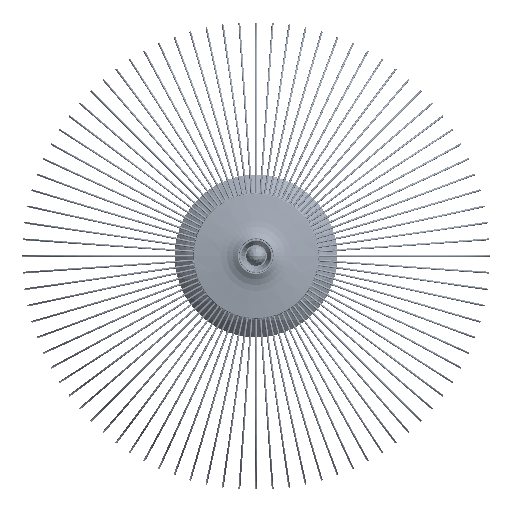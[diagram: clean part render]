
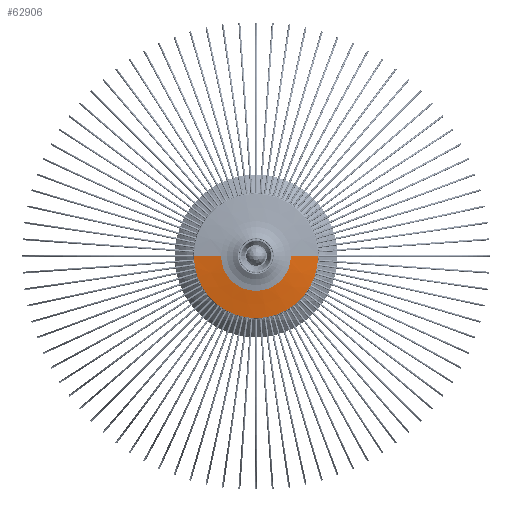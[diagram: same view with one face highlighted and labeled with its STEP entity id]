
A CAD part, front view. The second image highlights one B-rep face of the part: STEP entity #62906.
In plain terms, the highlighted conical face has half-angle 82 degrees and reference radius 80.878 mm.
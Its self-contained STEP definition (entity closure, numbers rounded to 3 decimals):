
#6231 = EDGE_CURVE ( 'NONE', #165004, #32406, #138549, .T. ) ;
#32406 = VERTEX_POINT ( 'NONE', #78072 ) ;
#42575 = ORIENTED_EDGE ( 'NONE', *, *, #231071, .F. ) ;
#43838 = VERTEX_POINT ( 'NONE', #214484 ) ;
#60037 = DIRECTION ( 'NONE',  ( -0.99, 0.139, 0. ) ) ;
#62906 = ADVANCED_FACE ( 'NONE', ( #180914 ), #113962, .T. ) ;
#64991 = DIRECTION ( 'NONE',  ( 0.99, 0.139, 0. ) ) ;
#68400 = ORIENTED_EDGE ( 'NONE', *, *, #209892, .T. ) ;
#68855 = CIRCLE ( 'NONE', #236138, 44.956 ) ;
#78072 = CARTESIAN_POINT ( 'NONE',  ( -80.047, -3.617, 0. ) ) ;
#82361 = DIRECTION ( 'NONE',  ( 0., -1., 0. ) ) ;
#83718 = CARTESIAN_POINT ( 'NONE',  ( 80.878, -3.5, 0. ) ) ;
#97288 = CARTESIAN_POINT ( 'NONE',  ( 44.956, -8.548, 0. ) ) ;
#99706 = AXIS2_PLACEMENT_3D ( 'NONE', #116100, #82361, #212088 ) ;
#102442 = LINE ( 'NONE', #83718, #177106 ) ;
#111430 = EDGE_LOOP ( 'NONE', ( #127006, #114934, #68400, #42575 ) ) ;
#113962 = CONICAL_SURFACE ( 'NONE', #177671, 80.878, 1.431 ) ;
#114934 = ORIENTED_EDGE ( 'NONE', *, *, #6231, .T. ) ;
#116100 = CARTESIAN_POINT ( 'NONE',  ( 0., -3.617, 0. ) ) ;
#127006 = ORIENTED_EDGE ( 'NONE', *, *, #229133, .T. ) ;
#138549 = LINE ( 'NONE', #154787, #237699 ) ;
#138575 = CARTESIAN_POINT ( 'NONE',  ( 0., -3.5, 0. ) ) ;
#154787 = CARTESIAN_POINT ( 'NONE',  ( -80.878, -3.5, 0. ) ) ;
#157300 = DIRECTION ( 'NONE',  ( 1., 0., 0. ) ) ;
#165004 = VERTEX_POINT ( 'NONE', #233995 ) ;
#167356 = CIRCLE ( 'NONE', #99706, 80.047 ) ;
#174179 = DIRECTION ( 'NONE',  ( 0., 1., 0. ) ) ;
#177106 = VECTOR ( 'NONE', #64991, 1000. ) ;
#177671 = AXIS2_PLACEMENT_3D ( 'NONE', #138575, #235750, #157300 ) ;
#180914 = FACE_OUTER_BOUND ( 'NONE', #111430, .T. ) ;
#191692 = CARTESIAN_POINT ( 'NONE',  ( 0., -8.548, 0. ) ) ;
#209892 = EDGE_CURVE ( 'NONE', #32406, #43838, #167356, .T. ) ;
#212088 = DIRECTION ( 'NONE',  ( -1., 0., 0. ) ) ;
#214484 = CARTESIAN_POINT ( 'NONE',  ( 80.047, -3.617, 0. ) ) ;
#218429 = VERTEX_POINT ( 'NONE', #97288 ) ;
#229133 = EDGE_CURVE ( 'NONE', #218429, #165004, #68855, .T. ) ;
#230222 = DIRECTION ( 'NONE',  ( 1., 0., 0. ) ) ;
#231071 = EDGE_CURVE ( 'NONE', #218429, #43838, #102442, .T. ) ;
#233995 = CARTESIAN_POINT ( 'NONE',  ( -44.956, -8.548, 0. ) ) ;
#235750 = DIRECTION ( 'NONE',  ( 0., 1., 0. ) ) ;
#236138 = AXIS2_PLACEMENT_3D ( 'NONE', #191692, #174179, #230222 ) ;
#237699 = VECTOR ( 'NONE', #60037, 1000. ) ;
